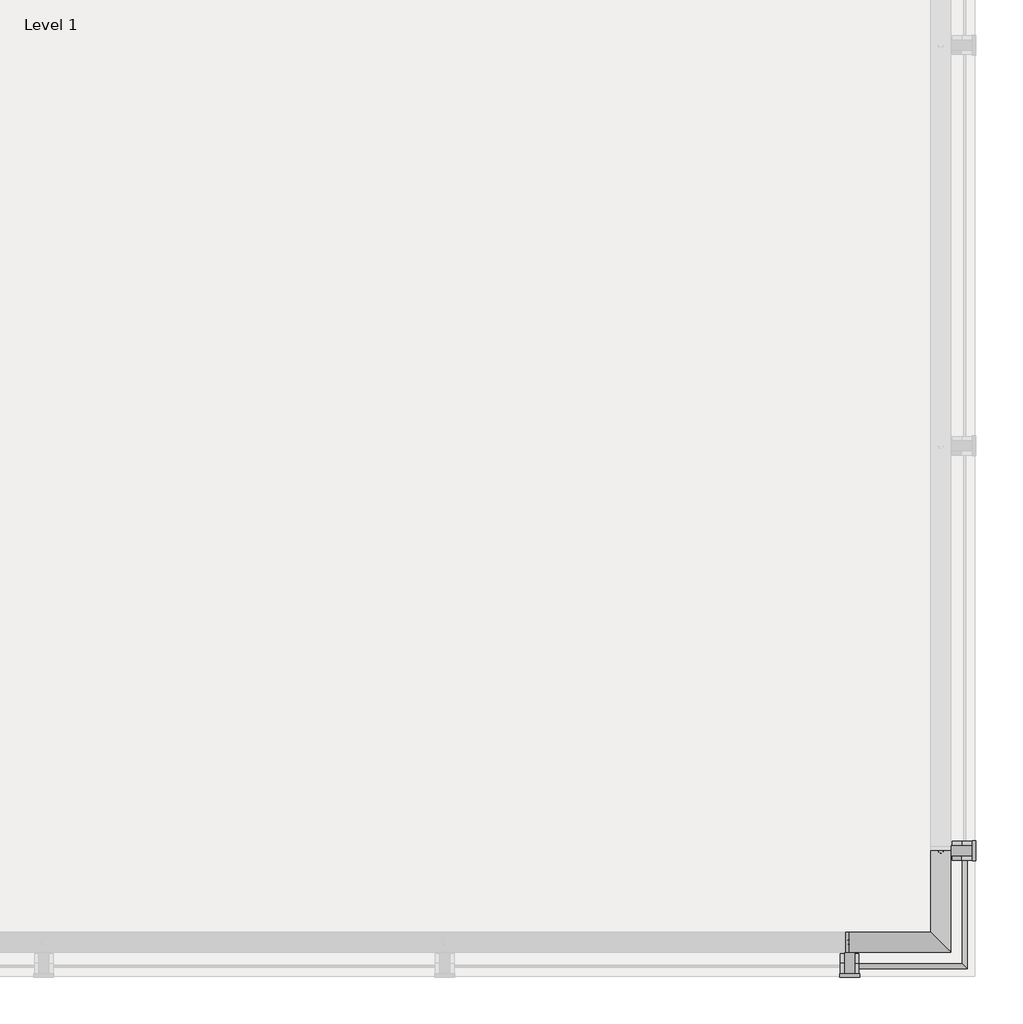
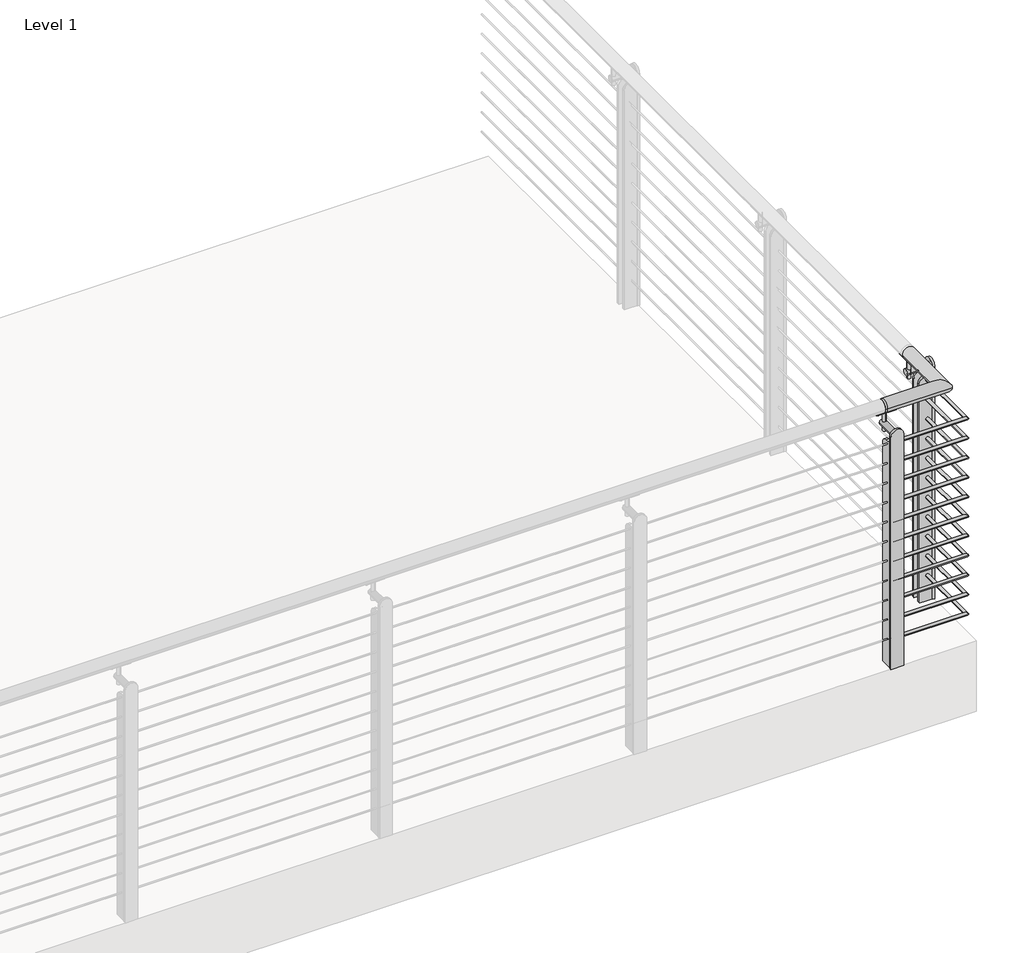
# One storey, part 8 of 9: 1 railing.
"""IFC4 building model written with IfcOpenShell, lengths in millimetres."""

import ifcopenshell
import ifcopenshell.guid

model = None  # the IFC model being written
_history = None  # IfcOwnerHistory: only IFC2X3 demands one
_inside = {}  # id of a spatial element -> (the spatial element, [elements in it])
_under = {}  # id of a project, library or spatial element -> (it, [spatial elements below it])
_declared = {}  # id of a project -> (the project, [libraries it declares])
_typed = {}  # id of a type object -> (the type object, [elements of that type])
_made_of = {}  # id of a material, layer set ... -> (it, [elements and type objects made of it])


def new_model(schema):
    """Start an empty IFC model of exactly this schema.

    Asked for "IFC4X3", IfcOpenShell would pick the latest addendum, in which some entities
    have other attributes; the version numbers below select the first issue.
    IFC2X3 requires an IfcOwnerHistory on every rooted entity: one is made here for all.
    """
    global model, _history
    if schema == "IFC4X3":
        model = ifcopenshell.file(schema_version=(4, 3, 0, 0))
    else:
        model = ifcopenshell.file(schema=schema)
    _inside.clear()
    _under.clear()
    _declared.clear()
    _typed.clear()
    _made_of.clear()
    _history = None
    if model.schema == "IFC2X3":
        org = make("IfcOrganization", Name="unknown")
        user = make(
            "IfcPersonAndOrganization",
            ThePerson=make("IfcPerson", FamilyName="unknown"),
            TheOrganization=org,
        )
        app = make(
            "IfcApplication",
            ApplicationDeveloper=org,
            Version="unknown",
            ApplicationFullName="unknown",
            ApplicationIdentifier="unknown",
        )
        _history = make(
            "IfcOwnerHistory",
            OwningUser=user,
            OwningApplication=app,
            ChangeAction="ADDED",
            CreationDate=0,
        )
    return model


def make(cls, **values):
    """One entity of the class cls with the attributes given. An attribute that is None is left unset."""
    return model.create_entity(
        cls, **{name: value for name, value in values.items() if value is not None}
    )


def rooted(cls, **values):
    """An entity with a GlobalId (a new one), such as an element, a storey or a relation."""
    return make(cls, GlobalId=ifcopenshell.guid.new(), OwnerHistory=_history, **values)


def si_unit(unit_type, name, prefix=None):
    """IfcSIUnit, for example si_unit("LENGTHUNIT", "METRE", prefix="MILLI")."""
    return make("IfcSIUnit", UnitType=unit_type, Prefix=prefix, Name=name)


def assignment(units):
    """IfcUnitAssignment: the units of a project."""
    return None if units is None else make("IfcUnitAssignment", Units=units)


def point(xyz):
    """IfcCartesianPoint."""
    return None if xyz is None else make("IfcCartesianPoint", Coordinates=xyz)


def direction(xyz):
    """IfcDirection."""
    return None if xyz is None else make("IfcDirection", DirectionRatios=xyz)


def frame(location, z_axis=None, x_axis=None):
    """IfcAxis2Placement3D, a coordinate frame: its origin and axes. An axis left out is left unset."""
    return make(
        "IfcAxis2Placement3D",
        Location=point(location),
        Axis=direction(z_axis),
        RefDirection=direction(x_axis),
    )


def frame_2d(location, x_axis=None):
    """IfcAxis2Placement2D, a coordinate frame in the plane: its origin and x axis."""
    return make(
        "IfcAxis2Placement2D", Location=point(location), RefDirection=direction(x_axis)
    )


def origin():
    """The frame at (0, 0, 0) with its axes left unset."""
    return frame((0.0, 0.0, 0.0))


def place(relative_to, where):
    """IfcLocalPlacement: puts the frame where relative to a parent placement (None: the world)."""
    return make(
        "IfcLocalPlacement", PlacementRelTo=relative_to, RelativePlacement=where
    )


def context(
    kind, dimensions, precision=None, world=None, true_north=None, identifier=None
):
    """IfcGeometricRepresentationContext, for example the 3D "Model" context."""
    return make(
        "IfcGeometricRepresentationContext",
        ContextIdentifier=identifier,
        ContextType=kind,
        CoordinateSpaceDimension=dimensions,
        Precision=precision,
        WorldCoordinateSystem=world,
        TrueNorth=true_north,
    )


def project(units=None, contexts=None):
    """IfcProject with its units and contexts."""
    return rooted(
        "IfcProject",
        Name="project",
        RepresentationContexts=contexts,
        UnitsInContext=assignment(units),
    )


def spatial(cls, under=None, at=None, **own):
    """A site, building, storey or space (cls), placed at a placement, below another one or the project."""
    s = rooted(cls, ObjectPlacement=at, **own)
    if under is not None:
        _under.setdefault(under.id(), (under, []))[1].append(s)
    return s


def polyline(points):
    """IfcPolyline through the points."""
    return make("IfcPolyline", Points=[point(p) for p in points])


def circle_curve(where, radius):
    """IfcCircle in the frame where."""
    return make("IfcCircle", Position=where, Radius=radius)


def ellipse_curve(where, semi_axis1, semi_axis2):
    """IfcEllipse in the frame where."""
    return make(
        "IfcEllipse", Position=where, SemiAxis1=semi_axis1, SemiAxis2=semi_axis2
    )


def trimmed(basis, trim1, trim2, sense, master):
    """IfcTrimmedCurve: the piece of a basis curve between two trims."""
    return make(
        "IfcTrimmedCurve",
        BasisCurve=basis,
        Trim1=trim1,
        Trim2=trim2,
        SenseAgreement=sense,
        MasterRepresentation=master,
    )


def segment(curve, same_sense, transition):
    """IfcCompositeCurveSegment."""
    return make(
        "IfcCompositeCurveSegment",
        Transition=transition,
        SameSense=same_sense,
        ParentCurve=curve,
    )


def composite_curve(segments, self_intersect=None):
    """IfcCompositeCurve: segments joined end to end."""
    return make("IfcCompositeCurve", Segments=segments, SelfIntersect=self_intersect)


def outline(outer, holes=None, kind="AREA"):
    """IfcArbitraryClosedProfileDef: a profile drawn as a closed curve; with holes, ...WithVoids."""
    if holes is None:
        return make("IfcArbitraryClosedProfileDef", ProfileType=kind, OuterCurve=outer)
    return make(
        "IfcArbitraryProfileDefWithVoids",
        ProfileType=kind,
        OuterCurve=outer,
        InnerCurves=holes,
    )


def extrude(swept, where, along, depth):
    """IfcExtrudedAreaSolid: the profile swept, set in the frame where, extruded along a direction by depth."""
    return make(
        "IfcExtrudedAreaSolid",
        SweptArea=swept,
        Position=where,
        ExtrudedDirection=direction(along),
        Depth=depth,
    )


def shape(context_of_items, identifier, shape_type, items):
    """IfcShapeRepresentation: the items that make up one representation, for example the "Body"."""
    return make(
        "IfcShapeRepresentation",
        ContextOfItems=context_of_items,
        RepresentationIdentifier=identifier,
        RepresentationType=shape_type,
        Items=items,
    )


def made_of(thing, what):
    """Note that an element or type object is made of a material, layer set ...; save() writes the relation."""
    if what is not None:
        _made_of.setdefault(what.id(), (what, []))[1].append(thing)
    return thing


def element(
    cls,
    number,
    at=None,
    inside=None,
    cuts=None,
    type_object=None,
    material=None,
    context=None,
    identifier="Body",
    shape_type=None,
    held_by="IfcProductDefinitionShape",
    body=None,
    shapes=None,
    **own,
):
    """One element of the class cls, such as IfcWall. Its Tag is "e" and its number.

    at: its placement. inside: the storey or other place that contains it. cuts: it is an
    opening in that element (IfcRelVoidsElement). A single representation is given by context,
    identifier, shape_type and body (its items); several are given by shapes. held_by: the class
    of the entity that holds the representations. save() writes the other relations.
    """
    e = rooted(cls, Tag="e%d" % number, ObjectPlacement=at, **own)
    if body is not None:
        shapes = [shape(context, identifier, shape_type, body)]
    if shapes is not None:
        e.Representation = make(held_by, Representations=shapes)
    if inside is not None:
        _inside.setdefault(inside.id(), (inside, []))[1].append(e)
    if cuts is not None:
        rooted(
            "IfcRelVoidsElement", RelatingBuildingElement=cuts, RelatedOpeningElement=e
        )
    if type_object is not None:
        _typed.setdefault(type_object.id(), (type_object, []))[1].append(e)
    return made_of(e, material)


def aggregate(whole, parts):
    """IfcRelAggregates: a whole, such as a stair, and the parts it consists of."""
    return rooted("IfcRelAggregates", RelatingObject=whole, RelatedObjects=parts)


def save(model, path):
    """Write the relations noted so far, then the file.

    IfcRelAggregates (storeys below a building ...), IfcRelContainedInSpatialStructure (elements
    in a storey), IfcRelDefinesByType, IfcRelAssociatesMaterial and IfcRelDeclares: one each for
    every whole, place, type object, material and project.
    """
    for whole, parts in _under.values():
        aggregate(whole, parts)
    for where, things in _inside.values():
        rooted(
            "IfcRelContainedInSpatialStructure",
            RelatedElements=things,
            RelatingStructure=where,
        )
    for kind, things in _typed.values():
        rooted("IfcRelDefinesByType", RelatedObjects=things, RelatingType=kind)
    for what, things in _made_of.values():
        rooted("IfcRelAssociatesMaterial", RelatedObjects=things, RelatingMaterial=what)
    for by, libraries in _declared.values():
        rooted("IfcRelDeclares", RelatingContext=by, RelatedDefinitions=libraries)
    model.write(path)


def plane_surface(at):
    """IfcPlane: the flat surface through the origin of the frame at, square to its z axis."""
    return make("IfcPlane", Position=at)


def cylinder_surface(at, radius):
    """IfcCylindricalSurface: all points at the distance radius from the z axis of the frame at."""
    return make("IfcCylindricalSurface", Position=at, Radius=radius)


def advanced_brep(points, edges, surfaces, faces):
    """IfcAdvancedBrep: a solid bounded by faces that lie on surfaces and meet in shared edges.

    An edge is (start, end): straight between two places in points (the first is 0);
    or (start, end, curve); or (start, end, curve, False) where it runs against its curve.
    A face is (place in surfaces, loops), or (place, loops, False) where it looks against
    its surface's normal. A loop lists edges by number (the first is 1), with a minus sign
    where the edge is run from its end to its start. The first loop is the outer one.
    """
    corners = [point(p) for p in points]
    vertices = [make("IfcVertexPoint", VertexGeometry=c) for c in corners]
    made = []
    for start, end, *more in edges:
        made.append(
            make(
                "IfcEdgeCurve",
                EdgeStart=vertices[start],
                EdgeEnd=vertices[end],
                EdgeGeometry=more[0] if more else make("IfcPolyline", Points=[corners[start], corners[end]]),
                SameSense=more[1] if len(more) > 1 else True,
            )
        )
    hull = []
    for where, loops, *sense in faces:
        bounds = []
        for j, loop in enumerate(loops):
            ring = [make("IfcOrientedEdge", EdgeElement=made[abs(k) - 1], Orientation=k > 0) for k in loop]
            bounds.append(
                make(
                    "IfcFaceOuterBound" if j == 0 else "IfcFaceBound",
                    Bound=make("IfcEdgeLoop", EdgeList=ring),
                    Orientation=True,
                )
            )
        hull.append(make("IfcAdvancedFace", Bounds=bounds, FaceSurface=surfaces[where], SameSense=sense[0] if sense else True))
    return make("IfcAdvancedBrep", Outer=make("IfcClosedShell", CfsFaces=hull))


model = new_model("IFC4")

# Units and contexts
model_context = context("Model", 3, world=origin())
ifc_project = project(units=[si_unit("LENGTHUNIT", "METRE", prefix="MILLI")], contexts=[model_context])

# Site, building, storey
site = spatial("IfcSite", under=ifc_project)
building = spatial("IfcBuilding", under=site)
storey = spatial("IfcBuildingStorey", under=building, Name="Level 1", Elevation=0.0)

# Railing
placement = place(None, origin())
element("IfcRailing", 1, ObjectType="VIVA-TEE-Cable-Weld Mount-Corner", at=placement, inside=storey, context=model_context, shape_type="SolidModel", body=[
    advanced_brep(
    [(-5110.3144753, -6007.8693064, 1054.1), (-5110.3144753, -6058.6693064, 1054.1), (-4853.1394753, -6058.6693064, 1054.1), (-4903.9394753, -6007.8693064, 1054.1), (-5120.7460999, -6058.6693064, 1054.1), (-5120.7460999, -6007.8693064, 1054.1), (-4853.1394753, -5801.4943064, 1054.1), (-4903.9394753, -5801.4943064, 1054.1)],
    [
        (0, 1, circle_curve(frame((-5110.3144753, -6033.2693064, 1054.1), z_axis=(1.0, 0.0, 0.0), x_axis=(0.0, 1.0, 0.0)), 25.4)),
        (1, 2),
        (2, 3, ellipse_curve(frame((-4878.5394753, -6033.2693064, 1054.1), z_axis=(-0.7071067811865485, -0.7071067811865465, 0.0), x_axis=(-0.7071067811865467, 0.7071067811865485, 0.0)), 35.9210245, 25.4)),
        (3, 0),
        (1, 0, circle_curve(frame((-5110.3144753, -6033.2693064, 1054.1), z_axis=(1.0, 0.0, 0.0), x_axis=(0.0, 1.0, 0.0)), 25.4)),
        (3, 2, ellipse_curve(frame((-4878.5394753, -6033.2693064, 1054.1), z_axis=(-0.7071067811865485, -0.7071067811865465, 0.0), x_axis=(-0.7071067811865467, 0.7071067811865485, 0.0)), 35.9210245, 25.4)),
        (4, 5, circle_curve(frame((-5120.7460999, -6033.2693064, 1054.1), z_axis=(-1.0, 0.0, 0.0), x_axis=(0.0, 1.0, 0.0)), 25.4)),
        (5, 4, circle_curve(frame((-5120.7460999, -6033.2693064, 1054.1), z_axis=(-1.0, 0.0, 0.0), x_axis=(0.0, 1.0, 0.0)), 25.4)),
        (4, 1),
        (0, 5),
        (6, 7, circle_curve(frame((-4878.5394753, -5801.4943064, 1054.1), z_axis=(0.0, 1.0, 0.0), x_axis=(-1.0, 0.0, 0.0)), 25.4)),
        (7, 6, circle_curve(frame((-4878.5394753, -5801.4943064, 1054.1), z_axis=(0.0, 1.0, 0.0), x_axis=(-1.0, 0.0, 0.0)), 25.4)),
        (2, 6),
        (7, 3),
    ],
    [
        cylinder_surface(frame((-5110.3144753, -6033.2693064, 1054.1), z_axis=(-1.0, 0.0, 0.0), x_axis=(0.0, 1.0, 0.0)), 25.4),
        plane_surface(frame((-5120.7460999, -6033.2693064, 1079.5), z_axis=(-1.0, 0.0, 0.0), x_axis=(0.0, 1.0, 0.0))),
        cylinder_surface(frame((-5120.7460999, -6033.2693064, 1054.1), z_axis=(-1.0, 0.0, 0.0), x_axis=(0.0, 1.0, 0.0)), 25.4),
        plane_surface(frame((-4878.5394753, -5801.4943064, 1079.5), z_axis=(0.0, 1.0, 0.0), x_axis=(0.0, 0.0, 1.0))),
        cylinder_surface(frame((-4878.5394753, -6033.2693064, 1054.1), z_axis=(0.0, -1.0, 0.0), x_axis=(-1.0, 0.0, 0.0)), 25.4),
    ],
    [
        (0, [[1, 2, 3, 4]]),
        (0, [[5, -4, 6, -2]]),
        (1, [[7, 8]]),
        (2, [[-7, 9, -1, 10]]),
        (2, [[-8, -10, -5, -9]]),
        (3, [[11, 12]]),
        (4, [[-3, 13, -12, 14]]),
        (4, [[-6, -14, -11, -13]]),
    ],
),
    advanced_brep(
    [(-5110.3144753, -6087.2443064, 933.45), (-5110.3144753, -6099.9443064, 933.45), (-4824.5644753, -6087.2443064, 933.45), (-4811.8644753, -6099.9443064, 933.45), (-4824.5644753, -5801.4943064, 933.45), (-4811.8644753, -5801.4943064, 933.45)],
    [
        (0, 1, circle_curve(frame((-5110.3144753, -6093.5943064, 933.45), z_axis=(-1.0, 0.0, 0.0), x_axis=(0.0, -1.0, 0.0)), 6.35)),
        (1, 0, circle_curve(frame((-5110.3144753, -6093.5943064, 933.45), z_axis=(-1.0, 0.0, 0.0), x_axis=(0.0, -1.0, 0.0)), 6.35)),
        (0, 2),
        (2, 3, ellipse_curve(frame((-4818.2144753, -6093.5943064, 933.45), z_axis=(-0.7071067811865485, -0.7071067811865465, 0.0), x_axis=(-0.7071067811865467, 0.7071067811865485, 0.0)), 8.9802561, 6.35)),
        (3, 1),
        (3, 2, ellipse_curve(frame((-4818.2144753, -6093.5943064, 933.45), z_axis=(-0.7071067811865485, -0.7071067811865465, 0.0), x_axis=(-0.7071067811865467, 0.7071067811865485, 0.0)), 8.9802561, 6.35)),
        (4, 5, circle_curve(frame((-4818.2144753, -5801.4943064, 933.45), z_axis=(0.0, 1.0, 0.0), x_axis=(1.0, 0.0, 0.0)), 6.35)),
        (5, 4, circle_curve(frame((-4818.2144753, -5801.4943064, 933.45), z_axis=(0.0, 1.0, 0.0), x_axis=(1.0, 0.0, 0.0)), 6.35)),
        (2, 4),
        (5, 3),
    ],
    [
        plane_surface(frame((-5110.3144753, -6093.5943064, 939.8), z_axis=(-1.0, 0.0, 0.0), x_axis=(0.0, 1.0, 0.0))),
        cylinder_surface(frame((-5110.3144753, -6093.5943064, 933.45), z_axis=(-1.0, 0.0, 0.0), x_axis=(0.0, -1.0, 0.0)), 6.35),
        plane_surface(frame((-4818.2144753, -5801.4943064, 939.8), z_axis=(0.0, 1.0, 0.0), x_axis=(0.0, 0.0, 1.0))),
        cylinder_surface(frame((-4818.2144753, -6093.5943064, 933.45), z_axis=(0.0, -1.0, 0.0), x_axis=(1.0, 0.0, 0.0)), 6.35),
    ],
    [
        (0, [[1, 2]]),
        (1, [[-1, 3, 4, 5]]),
        (1, [[-2, -5, 6, -3]]),
        (2, [[7, 8]]),
        (3, [[-4, 9, -8, 10]]),
        (3, [[-6, -10, -7, -9]]),
    ],
),
    advanced_brep(
    [(-5110.3144753, -6087.2443064, 850.9), (-5110.3144753, -6099.9443064, 850.9), (-4824.5644753, -6087.2443064, 850.9), (-4811.8644753, -6099.9443064, 850.9), (-4824.5644753, -5801.4943064, 850.9), (-4811.8644753, -5801.4943064, 850.9)],
    [
        (0, 1, circle_curve(frame((-5110.3144753, -6093.5943064, 850.9), z_axis=(-1.0, 0.0, 0.0), x_axis=(0.0, -1.0, 0.0)), 6.35)),
        (1, 0, circle_curve(frame((-5110.3144753, -6093.5943064, 850.9), z_axis=(-1.0, 0.0, 0.0), x_axis=(0.0, -1.0, 0.0)), 6.35)),
        (0, 2),
        (2, 3, ellipse_curve(frame((-4818.2144753, -6093.5943064, 850.9), z_axis=(-0.7071067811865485, -0.7071067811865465, 0.0), x_axis=(-0.7071067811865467, 0.7071067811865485, 0.0)), 8.9802561, 6.35)),
        (3, 1),
        (3, 2, ellipse_curve(frame((-4818.2144753, -6093.5943064, 850.9), z_axis=(-0.7071067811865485, -0.7071067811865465, 0.0), x_axis=(-0.7071067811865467, 0.7071067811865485, 0.0)), 8.9802561, 6.35)),
        (4, 5, circle_curve(frame((-4818.2144753, -5801.4943064, 850.9), z_axis=(0.0, 1.0, 0.0), x_axis=(1.0, 0.0, 0.0)), 6.35)),
        (5, 4, circle_curve(frame((-4818.2144753, -5801.4943064, 850.9), z_axis=(0.0, 1.0, 0.0), x_axis=(1.0, 0.0, 0.0)), 6.35)),
        (2, 4),
        (5, 3),
    ],
    [
        plane_surface(frame((-5110.3144753, -6093.5943064, 857.25), z_axis=(-1.0, 0.0, 0.0), x_axis=(0.0, 1.0, 0.0))),
        cylinder_surface(frame((-5110.3144753, -6093.5943064, 850.9), z_axis=(-1.0, 0.0, 0.0), x_axis=(0.0, -1.0, 0.0)), 6.35),
        plane_surface(frame((-4818.2144753, -5801.4943064, 857.25), z_axis=(0.0, 1.0, 0.0), x_axis=(0.0, 0.0, 1.0))),
        cylinder_surface(frame((-4818.2144753, -6093.5943064, 850.9), z_axis=(0.0, -1.0, 0.0), x_axis=(1.0, 0.0, 0.0)), 6.35),
    ],
    [
        (0, [[1, 2]]),
        (1, [[-1, 3, 4, 5]]),
        (1, [[-2, -5, 6, -3]]),
        (2, [[7, 8]]),
        (3, [[-4, 9, -8, 10]]),
        (3, [[-6, -10, -7, -9]]),
    ],
),
    advanced_brep(
    [(-5110.3144753, -6087.2443064, 768.35), (-5110.3144753, -6099.9443064, 768.35), (-4824.5644753, -6087.2443064, 768.35), (-4811.8644753, -6099.9443064, 768.35), (-4824.5644753, -5801.4943064, 768.35), (-4811.8644753, -5801.4943064, 768.35)],
    [
        (0, 1, circle_curve(frame((-5110.3144753, -6093.5943064, 768.35), z_axis=(-1.0, 0.0, 0.0), x_axis=(0.0, -1.0, 0.0)), 6.35)),
        (1, 0, circle_curve(frame((-5110.3144753, -6093.5943064, 768.35), z_axis=(-1.0, 0.0, 0.0), x_axis=(0.0, -1.0, 0.0)), 6.35)),
        (0, 2),
        (2, 3, ellipse_curve(frame((-4818.2144753, -6093.5943064, 768.35), z_axis=(-0.7071067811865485, -0.7071067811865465, 0.0), x_axis=(-0.7071067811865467, 0.7071067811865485, 0.0)), 8.9802561, 6.35)),
        (3, 1),
        (3, 2, ellipse_curve(frame((-4818.2144753, -6093.5943064, 768.35), z_axis=(-0.7071067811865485, -0.7071067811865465, 0.0), x_axis=(-0.7071067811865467, 0.7071067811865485, 0.0)), 8.9802561, 6.35)),
        (4, 5, circle_curve(frame((-4818.2144753, -5801.4943064, 768.35), z_axis=(0.0, 1.0, 0.0), x_axis=(1.0, 0.0, 0.0)), 6.35)),
        (5, 4, circle_curve(frame((-4818.2144753, -5801.4943064, 768.35), z_axis=(0.0, 1.0, 0.0), x_axis=(1.0, 0.0, 0.0)), 6.35)),
        (2, 4),
        (5, 3),
    ],
    [
        plane_surface(frame((-5110.3144753, -6093.5943064, 774.7), z_axis=(-1.0, 0.0, 0.0), x_axis=(0.0, 1.0, 0.0))),
        cylinder_surface(frame((-5110.3144753, -6093.5943064, 768.35), z_axis=(-1.0, 0.0, 0.0), x_axis=(0.0, -1.0, 0.0)), 6.35),
        plane_surface(frame((-4818.2144753, -5801.4943064, 774.7), z_axis=(0.0, 1.0, 0.0), x_axis=(0.0, 0.0, 1.0))),
        cylinder_surface(frame((-4818.2144753, -6093.5943064, 768.35), z_axis=(0.0, -1.0, 0.0), x_axis=(1.0, 0.0, 0.0)), 6.35),
    ],
    [
        (0, [[1, 2]]),
        (1, [[-1, 3, 4, 5]]),
        (1, [[-2, -5, 6, -3]]),
        (2, [[7, 8]]),
        (3, [[-4, 9, -8, 10]]),
        (3, [[-6, -10, -7, -9]]),
    ],
),
    advanced_brep(
    [(-5110.3144753, -6087.2443064, 685.8), (-5110.3144753, -6099.9443064, 685.8), (-4824.5644753, -6087.2443064, 685.8), (-4811.8644753, -6099.9443064, 685.8), (-4824.5644753, -5801.4943064, 685.8), (-4811.8644753, -5801.4943064, 685.8)],
    [
        (0, 1, circle_curve(frame((-5110.3144753, -6093.5943064, 685.8), z_axis=(-1.0, 0.0, 0.0), x_axis=(0.0, -1.0, 0.0)), 6.35)),
        (1, 0, circle_curve(frame((-5110.3144753, -6093.5943064, 685.8), z_axis=(-1.0, 0.0, 0.0), x_axis=(0.0, -1.0, 0.0)), 6.35)),
        (0, 2),
        (2, 3, ellipse_curve(frame((-4818.2144753, -6093.5943064, 685.8), z_axis=(-0.7071067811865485, -0.7071067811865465, 0.0), x_axis=(-0.7071067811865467, 0.7071067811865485, 0.0)), 8.9802561, 6.35)),
        (3, 1),
        (3, 2, ellipse_curve(frame((-4818.2144753, -6093.5943064, 685.8), z_axis=(-0.7071067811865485, -0.7071067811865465, 0.0), x_axis=(-0.7071067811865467, 0.7071067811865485, 0.0)), 8.9802561, 6.35)),
        (4, 5, circle_curve(frame((-4818.2144753, -5801.4943064, 685.8), z_axis=(0.0, 1.0, 0.0), x_axis=(1.0, 0.0, 0.0)), 6.35)),
        (5, 4, circle_curve(frame((-4818.2144753, -5801.4943064, 685.8), z_axis=(0.0, 1.0, 0.0), x_axis=(1.0, 0.0, 0.0)), 6.35)),
        (2, 4),
        (5, 3),
    ],
    [
        plane_surface(frame((-5110.3144753, -6093.5943064, 692.15), z_axis=(-1.0, 0.0, 0.0), x_axis=(0.0, 1.0, 0.0))),
        cylinder_surface(frame((-5110.3144753, -6093.5943064, 685.8), z_axis=(-1.0, 0.0, 0.0), x_axis=(0.0, -1.0, 0.0)), 6.35),
        plane_surface(frame((-4818.2144753, -5801.4943064, 692.15), z_axis=(0.0, 1.0, 0.0), x_axis=(0.0, 0.0, 1.0))),
        cylinder_surface(frame((-4818.2144753, -6093.5943064, 685.8), z_axis=(0.0, -1.0, 0.0), x_axis=(1.0, 0.0, 0.0)), 6.35),
    ],
    [
        (0, [[1, 2]]),
        (1, [[-1, 3, 4, 5]]),
        (1, [[-2, -5, 6, -3]]),
        (2, [[7, 8]]),
        (3, [[-4, 9, -8, 10]]),
        (3, [[-6, -10, -7, -9]]),
    ],
),
    advanced_brep(
    [(-5110.3144753, -6087.2443064, 603.25), (-5110.3144753, -6099.9443064, 603.25), (-4824.5644753, -6087.2443064, 603.25), (-4811.8644753, -6099.9443064, 603.25), (-4824.5644753, -5801.4943064, 603.25), (-4811.8644753, -5801.4943064, 603.25)],
    [
        (0, 1, circle_curve(frame((-5110.3144753, -6093.5943064, 603.25), z_axis=(-1.0, 0.0, 0.0), x_axis=(0.0, -1.0, 0.0)), 6.35)),
        (1, 0, circle_curve(frame((-5110.3144753, -6093.5943064, 603.25), z_axis=(-1.0, 0.0, 0.0), x_axis=(0.0, -1.0, 0.0)), 6.35)),
        (0, 2),
        (2, 3, ellipse_curve(frame((-4818.2144753, -6093.5943064, 603.25), z_axis=(-0.7071067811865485, -0.7071067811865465, 0.0), x_axis=(-0.7071067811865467, 0.7071067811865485, 0.0)), 8.9802561, 6.35)),
        (3, 1),
        (3, 2, ellipse_curve(frame((-4818.2144753, -6093.5943064, 603.25), z_axis=(-0.7071067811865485, -0.7071067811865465, 0.0), x_axis=(-0.7071067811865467, 0.7071067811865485, 0.0)), 8.9802561, 6.35)),
        (4, 5, circle_curve(frame((-4818.2144753, -5801.4943064, 603.25), z_axis=(0.0, 1.0, 0.0), x_axis=(1.0, 0.0, 0.0)), 6.35)),
        (5, 4, circle_curve(frame((-4818.2144753, -5801.4943064, 603.25), z_axis=(0.0, 1.0, 0.0), x_axis=(1.0, 0.0, 0.0)), 6.35)),
        (2, 4),
        (5, 3),
    ],
    [
        plane_surface(frame((-5110.3144753, -6093.5943064, 609.6), z_axis=(-1.0, 0.0, 0.0), x_axis=(0.0, 1.0, 0.0))),
        cylinder_surface(frame((-5110.3144753, -6093.5943064, 603.25), z_axis=(-1.0, 0.0, 0.0), x_axis=(0.0, -1.0, 0.0)), 6.35),
        plane_surface(frame((-4818.2144753, -5801.4943064, 609.6), z_axis=(0.0, 1.0, 0.0), x_axis=(0.0, 0.0, 1.0))),
        cylinder_surface(frame((-4818.2144753, -6093.5943064, 603.25), z_axis=(0.0, -1.0, 0.0), x_axis=(1.0, 0.0, 0.0)), 6.35),
    ],
    [
        (0, [[1, 2]]),
        (1, [[-1, 3, 4, 5]]),
        (1, [[-2, -5, 6, -3]]),
        (2, [[7, 8]]),
        (3, [[-4, 9, -8, 10]]),
        (3, [[-6, -10, -7, -9]]),
    ],
),
    advanced_brep(
    [(-5110.3144753, -6087.2443064, 520.7), (-5110.3144753, -6099.9443064, 520.7), (-4824.5644753, -6087.2443064, 520.7), (-4811.8644753, -6099.9443064, 520.7), (-4824.5644753, -5801.4943064, 520.7), (-4811.8644753, -5801.4943064, 520.7)],
    [
        (0, 1, circle_curve(frame((-5110.3144753, -6093.5943064, 520.7), z_axis=(-1.0, 0.0, 0.0), x_axis=(0.0, -1.0, 0.0)), 6.35)),
        (1, 0, circle_curve(frame((-5110.3144753, -6093.5943064, 520.7), z_axis=(-1.0, 0.0, 0.0), x_axis=(0.0, -1.0, 0.0)), 6.35)),
        (0, 2),
        (2, 3, ellipse_curve(frame((-4818.2144753, -6093.5943064, 520.7), z_axis=(-0.7071067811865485, -0.7071067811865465, 0.0), x_axis=(-0.7071067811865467, 0.7071067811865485, 0.0)), 8.9802561, 6.35)),
        (3, 1),
        (3, 2, ellipse_curve(frame((-4818.2144753, -6093.5943064, 520.7), z_axis=(-0.7071067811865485, -0.7071067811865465, 0.0), x_axis=(-0.7071067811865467, 0.7071067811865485, 0.0)), 8.9802561, 6.35)),
        (4, 5, circle_curve(frame((-4818.2144753, -5801.4943064, 520.7), z_axis=(0.0, 1.0, 0.0), x_axis=(1.0, 0.0, 0.0)), 6.35)),
        (5, 4, circle_curve(frame((-4818.2144753, -5801.4943064, 520.7), z_axis=(0.0, 1.0, 0.0), x_axis=(1.0, 0.0, 0.0)), 6.35)),
        (2, 4),
        (5, 3),
    ],
    [
        plane_surface(frame((-5110.3144753, -6093.5943064, 527.05), z_axis=(-1.0, 0.0, 0.0), x_axis=(0.0, 1.0, 0.0))),
        cylinder_surface(frame((-5110.3144753, -6093.5943064, 520.7), z_axis=(-1.0, 0.0, 0.0), x_axis=(0.0, -1.0, 0.0)), 6.35),
        plane_surface(frame((-4818.2144753, -5801.4943064, 527.05), z_axis=(0.0, 1.0, 0.0), x_axis=(0.0, 0.0, 1.0))),
        cylinder_surface(frame((-4818.2144753, -6093.5943064, 520.7), z_axis=(0.0, -1.0, 0.0), x_axis=(1.0, 0.0, 0.0)), 6.35),
    ],
    [
        (0, [[1, 2]]),
        (1, [[-1, 3, 4, 5]]),
        (1, [[-2, -5, 6, -3]]),
        (2, [[7, 8]]),
        (3, [[-4, 9, -8, 10]]),
        (3, [[-6, -10, -7, -9]]),
    ],
),
    advanced_brep(
    [(-5110.3144753, -6087.2443064, 438.15), (-5110.3144753, -6099.9443064, 438.15), (-4824.5644753, -6087.2443064, 438.15), (-4811.8644753, -6099.9443064, 438.15), (-4824.5644753, -5801.4943064, 438.15), (-4811.8644753, -5801.4943064, 438.15)],
    [
        (0, 1, circle_curve(frame((-5110.3144753, -6093.5943064, 438.15), z_axis=(-1.0, 0.0, 0.0), x_axis=(0.0, -1.0, 0.0)), 6.35)),
        (1, 0, circle_curve(frame((-5110.3144753, -6093.5943064, 438.15), z_axis=(-1.0, 0.0, 0.0), x_axis=(0.0, -1.0, 0.0)), 6.35)),
        (0, 2),
        (2, 3, ellipse_curve(frame((-4818.2144753, -6093.5943064, 438.15), z_axis=(-0.7071067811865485, -0.7071067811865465, 0.0), x_axis=(-0.7071067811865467, 0.7071067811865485, 0.0)), 8.9802561, 6.35)),
        (3, 1),
        (3, 2, ellipse_curve(frame((-4818.2144753, -6093.5943064, 438.15), z_axis=(-0.7071067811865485, -0.7071067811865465, 0.0), x_axis=(-0.7071067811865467, 0.7071067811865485, 0.0)), 8.9802561, 6.35)),
        (4, 5, circle_curve(frame((-4818.2144753, -5801.4943064, 438.15), z_axis=(0.0, 1.0, 0.0), x_axis=(1.0, 0.0, 0.0)), 6.35)),
        (5, 4, circle_curve(frame((-4818.2144753, -5801.4943064, 438.15), z_axis=(0.0, 1.0, 0.0), x_axis=(1.0, 0.0, 0.0)), 6.35)),
        (2, 4),
        (5, 3),
    ],
    [
        plane_surface(frame((-5110.3144753, -6093.5943064, 444.5), z_axis=(-1.0, 0.0, 0.0), x_axis=(0.0, 1.0, 0.0))),
        cylinder_surface(frame((-5110.3144753, -6093.5943064, 438.15), z_axis=(-1.0, 0.0, 0.0), x_axis=(0.0, -1.0, 0.0)), 6.35),
        plane_surface(frame((-4818.2144753, -5801.4943064, 444.5), z_axis=(0.0, 1.0, 0.0), x_axis=(0.0, 0.0, 1.0))),
        cylinder_surface(frame((-4818.2144753, -6093.5943064, 438.15), z_axis=(0.0, -1.0, 0.0), x_axis=(1.0, 0.0, 0.0)), 6.35),
    ],
    [
        (0, [[1, 2]]),
        (1, [[-1, 3, 4, 5]]),
        (1, [[-2, -5, 6, -3]]),
        (2, [[7, 8]]),
        (3, [[-4, 9, -8, 10]]),
        (3, [[-6, -10, -7, -9]]),
    ],
),
    advanced_brep(
    [(-5110.3144753, -6087.2443064, 355.6), (-5110.3144753, -6099.9443064, 355.6), (-4824.5644753, -6087.2443064, 355.6), (-4811.8644753, -6099.9443064, 355.6), (-4824.5644753, -5801.4943064, 355.6), (-4811.8644753, -5801.4943064, 355.6)],
    [
        (0, 1, circle_curve(frame((-5110.3144753, -6093.5943064, 355.6), z_axis=(-1.0, 0.0, 0.0), x_axis=(0.0, -1.0, 0.0)), 6.35)),
        (1, 0, circle_curve(frame((-5110.3144753, -6093.5943064, 355.6), z_axis=(-1.0, 0.0, 0.0), x_axis=(0.0, -1.0, 0.0)), 6.35)),
        (0, 2),
        (2, 3, ellipse_curve(frame((-4818.2144753, -6093.5943064, 355.6), z_axis=(-0.7071067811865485, -0.7071067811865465, 0.0), x_axis=(-0.7071067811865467, 0.7071067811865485, 0.0)), 8.9802561, 6.35)),
        (3, 1),
        (3, 2, ellipse_curve(frame((-4818.2144753, -6093.5943064, 355.6), z_axis=(-0.7071067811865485, -0.7071067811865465, 0.0), x_axis=(-0.7071067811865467, 0.7071067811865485, 0.0)), 8.9802561, 6.35)),
        (4, 5, circle_curve(frame((-4818.2144753, -5801.4943064, 355.6), z_axis=(0.0, 1.0, 0.0), x_axis=(1.0, 0.0, 0.0)), 6.35)),
        (5, 4, circle_curve(frame((-4818.2144753, -5801.4943064, 355.6), z_axis=(0.0, 1.0, 0.0), x_axis=(1.0, 0.0, 0.0)), 6.35)),
        (2, 4),
        (5, 3),
    ],
    [
        plane_surface(frame((-5110.3144753, -6093.5943064, 361.95), z_axis=(-1.0, 0.0, 0.0), x_axis=(0.0, 1.0, 0.0))),
        cylinder_surface(frame((-5110.3144753, -6093.5943064, 355.6), z_axis=(-1.0, 0.0, 0.0), x_axis=(0.0, -1.0, 0.0)), 6.35),
        plane_surface(frame((-4818.2144753, -5801.4943064, 361.95), z_axis=(0.0, 1.0, 0.0), x_axis=(0.0, 0.0, 1.0))),
        cylinder_surface(frame((-4818.2144753, -6093.5943064, 355.6), z_axis=(0.0, -1.0, 0.0), x_axis=(1.0, 0.0, 0.0)), 6.35),
    ],
    [
        (0, [[1, 2]]),
        (1, [[-1, 3, 4, 5]]),
        (1, [[-2, -5, 6, -3]]),
        (2, [[7, 8]]),
        (3, [[-4, 9, -8, 10]]),
        (3, [[-6, -10, -7, -9]]),
    ],
),
    advanced_brep(
    [(-5110.3144753, -6087.2443064, 273.05), (-5110.3144753, -6099.9443064, 273.05), (-4824.5644753, -6087.2443064, 273.05), (-4811.8644753, -6099.9443064, 273.05), (-4824.5644753, -5801.4943064, 273.05), (-4811.8644753, -5801.4943064, 273.05)],
    [
        (0, 1, circle_curve(frame((-5110.3144753, -6093.5943064, 273.05), z_axis=(-1.0, 0.0, 0.0), x_axis=(0.0, -1.0, 0.0)), 6.35)),
        (1, 0, circle_curve(frame((-5110.3144753, -6093.5943064, 273.05), z_axis=(-1.0, 0.0, 0.0), x_axis=(0.0, -1.0, 0.0)), 6.35)),
        (0, 2),
        (2, 3, ellipse_curve(frame((-4818.2144753, -6093.5943064, 273.05), z_axis=(-0.7071067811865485, -0.7071067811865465, 0.0), x_axis=(-0.7071067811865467, 0.7071067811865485, 0.0)), 8.9802561, 6.35)),
        (3, 1),
        (3, 2, ellipse_curve(frame((-4818.2144753, -6093.5943064, 273.05), z_axis=(-0.7071067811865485, -0.7071067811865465, 0.0), x_axis=(-0.7071067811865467, 0.7071067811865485, 0.0)), 8.9802561, 6.35)),
        (4, 5, circle_curve(frame((-4818.2144753, -5801.4943064, 273.05), z_axis=(0.0, 1.0, 0.0), x_axis=(1.0, 0.0, 0.0)), 6.35)),
        (5, 4, circle_curve(frame((-4818.2144753, -5801.4943064, 273.05), z_axis=(0.0, 1.0, 0.0), x_axis=(1.0, 0.0, 0.0)), 6.35)),
        (2, 4),
        (5, 3),
    ],
    [
        plane_surface(frame((-5110.3144753, -6093.5943064, 279.4), z_axis=(-1.0, 0.0, 0.0), x_axis=(0.0, 1.0, 0.0))),
        cylinder_surface(frame((-5110.3144753, -6093.5943064, 273.05), z_axis=(-1.0, 0.0, 0.0), x_axis=(0.0, -1.0, 0.0)), 6.35),
        plane_surface(frame((-4818.2144753, -5801.4943064, 279.4), z_axis=(0.0, 1.0, 0.0), x_axis=(0.0, 0.0, 1.0))),
        cylinder_surface(frame((-4818.2144753, -6093.5943064, 273.05), z_axis=(0.0, -1.0, 0.0), x_axis=(1.0, 0.0, 0.0)), 6.35),
    ],
    [
        (0, [[1, 2]]),
        (1, [[-1, 3, 4, 5]]),
        (1, [[-2, -5, 6, -3]]),
        (2, [[7, 8]]),
        (3, [[-4, 9, -8, 10]]),
        (3, [[-6, -10, -7, -9]]),
    ],
),
    advanced_brep(
    [(-5110.3144753, -6087.2443064, 190.5), (-5110.3144753, -6099.9443064, 190.5), (-4824.5644753, -6087.2443064, 190.5), (-4811.8644753, -6099.9443064, 190.5), (-4824.5644753, -5801.4943064, 190.5), (-4811.8644753, -5801.4943064, 190.5)],
    [
        (0, 1, circle_curve(frame((-5110.3144753, -6093.5943064, 190.5), z_axis=(-1.0, 0.0, 0.0), x_axis=(0.0, -1.0, 0.0)), 6.35)),
        (1, 0, circle_curve(frame((-5110.3144753, -6093.5943064, 190.5), z_axis=(-1.0, 0.0, 0.0), x_axis=(0.0, -1.0, 0.0)), 6.35)),
        (0, 2),
        (2, 3, ellipse_curve(frame((-4818.2144753, -6093.5943064, 190.5), z_axis=(-0.7071067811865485, -0.7071067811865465, 0.0), x_axis=(-0.7071067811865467, 0.7071067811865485, 0.0)), 8.9802561, 6.35)),
        (3, 1),
        (3, 2, ellipse_curve(frame((-4818.2144753, -6093.5943064, 190.5), z_axis=(-0.7071067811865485, -0.7071067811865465, 0.0), x_axis=(-0.7071067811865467, 0.7071067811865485, 0.0)), 8.9802561, 6.35)),
        (4, 5, circle_curve(frame((-4818.2144753, -5801.4943064, 190.5), z_axis=(0.0, 1.0, 0.0), x_axis=(1.0, 0.0, 0.0)), 6.35)),
        (5, 4, circle_curve(frame((-4818.2144753, -5801.4943064, 190.5), z_axis=(0.0, 1.0, 0.0), x_axis=(1.0, 0.0, 0.0)), 6.35)),
        (2, 4),
        (5, 3),
    ],
    [
        plane_surface(frame((-5110.3144753, -6093.5943064, 196.85), z_axis=(-1.0, 0.0, 0.0), x_axis=(0.0, 1.0, 0.0))),
        cylinder_surface(frame((-5110.3144753, -6093.5943064, 190.5), z_axis=(-1.0, 0.0, 0.0), x_axis=(0.0, -1.0, 0.0)), 6.35),
        plane_surface(frame((-4818.2144753, -5801.4943064, 196.85), z_axis=(0.0, 1.0, 0.0), x_axis=(0.0, 0.0, 1.0))),
        cylinder_surface(frame((-4818.2144753, -6093.5943064, 190.5), z_axis=(0.0, -1.0, 0.0), x_axis=(1.0, 0.0, 0.0)), 6.35),
    ],
    [
        (0, [[1, 2]]),
        (1, [[-1, 3, 4, 5]]),
        (1, [[-2, -5, 6, -3]]),
        (2, [[7, 8]]),
        (3, [[-4, 9, -8, 10]]),
        (3, [[-6, -10, -7, -9]]),
    ],
),
    advanced_brep(
    [(-5110.3144753, -6087.2443064, 107.95), (-5110.3144753, -6099.9443064, 107.95), (-4824.5644753, -6087.2443064, 107.95), (-4811.8644753, -6099.9443064, 107.95), (-4824.5644753, -5801.4943064, 107.95), (-4811.8644753, -5801.4943064, 107.95)],
    [
        (0, 1, circle_curve(frame((-5110.3144753, -6093.5943064, 107.95), z_axis=(-1.0, 0.0, 0.0), x_axis=(0.0, -1.0, 0.0)), 6.35)),
        (1, 0, circle_curve(frame((-5110.3144753, -6093.5943064, 107.95), z_axis=(-1.0, 0.0, 0.0), x_axis=(0.0, -1.0, 0.0)), 6.35)),
        (0, 2),
        (2, 3, ellipse_curve(frame((-4818.2144753, -6093.5943064, 107.95), z_axis=(-0.7071067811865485, -0.7071067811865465, 0.0), x_axis=(-0.7071067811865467, 0.7071067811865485, 0.0)), 8.9802561, 6.35)),
        (3, 1),
        (3, 2, ellipse_curve(frame((-4818.2144753, -6093.5943064, 107.95), z_axis=(-0.7071067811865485, -0.7071067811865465, 0.0), x_axis=(-0.7071067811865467, 0.7071067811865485, 0.0)), 8.9802561, 6.35)),
        (4, 5, circle_curve(frame((-4818.2144753, -5801.4943064, 107.95), z_axis=(0.0, 1.0, 0.0), x_axis=(1.0, 0.0, 0.0)), 6.35)),
        (5, 4, circle_curve(frame((-4818.2144753, -5801.4943064, 107.95), z_axis=(0.0, 1.0, 0.0), x_axis=(1.0, 0.0, 0.0)), 6.35)),
        (2, 4),
        (5, 3),
    ],
    [
        plane_surface(frame((-5110.3144753, -6093.5943064, 114.3), z_axis=(-1.0, 0.0, 0.0), x_axis=(0.0, 1.0, 0.0))),
        cylinder_surface(frame((-5110.3144753, -6093.5943064, 107.95), z_axis=(-1.0, 0.0, 0.0), x_axis=(0.0, -1.0, 0.0)), 6.35),
        plane_surface(frame((-4818.2144753, -5801.4943064, 114.3), z_axis=(0.0, 1.0, 0.0), x_axis=(0.0, 0.0, 1.0))),
        cylinder_surface(frame((-4818.2144753, -6093.5943064, 107.95), z_axis=(0.0, -1.0, 0.0), x_axis=(1.0, 0.0, 0.0)), 6.35),
    ],
    [
        (0, [[1, 2]]),
        (1, [[-1, 3, 4, 5]]),
        (1, [[-2, -5, 6, -3]]),
        (2, [[7, 8]]),
        (3, [[-4, 9, -8, 10]]),
        (3, [[-6, -10, -7, -9]]),
    ],
),
    extrude(outline(composite_curve([segment(trimmed(circle_curve(frame_2d((0.0, 7.0)), 7.0), [point((0.0, 14.0))], [point((0.0, 0.0))], False, "CARTESIAN"), True, "CONTINUOUS"), segment(trimmed(circle_curve(frame_2d((0.0, 7.0)), 7.0), [point((0.0, 0.0))], [point((0.0, 14.0))], False, "CARTESIAN"), True, "CONTINUOUS")], self_intersect=False)), frame((-4871.8296215, -5801.4205965, 949.1832524), z_axis=(0.0, 0.004253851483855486, 0.9999909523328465), x_axis=(0.0, 0.9999909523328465, -0.004253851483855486)), (0.0, 0.0, 1.0), 75.97),
    extrude(outline(composite_curve([segment(trimmed(circle_curve(frame_2d((1047.2025651, -4878.9710255)), 19.05), [point((1033.7916463, -4865.4414373))], [point((1033.7916463, -4892.5006138))], True, "CARTESIAN"), True, "CONTINUOUS"), segment(polyline([(1033.7916463, -4892.5006138), (1032.7742593, -4893.5270034)]), True, "CONTINUOUS"), segment(trimmed(circle_curve(frame_2d((1031.7089374, -4892.4710255)), 1.5), [point((1032.7742593, -4893.5270034))], [point((1030.5780156, -4893.456427))], False, "CARTESIAN"), True, "CONTINUOUS"), segment(trimmed(circle_curve(frame_2d((1047.2025651, -4878.9710255)), 22.05), [point((1030.5780156, -4893.456427))], [point((1030.5780156, -4864.4856241))], False, "CARTESIAN"), True, "CONTINUOUS"), segment(trimmed(circle_curve(frame_2d((1031.7089374, -4865.4710255)), 1.5), [point((1030.5780156, -4864.4856241))], [point((1032.7742593, -4864.4150477))], False, "CARTESIAN"), True, "CONTINUOUS"), segment(polyline([(1032.7742593, -4864.4150477), (1033.7916463, -4865.4414373)]), True, "CONTINUOUS")], self_intersect=False)), frame((0.0, -5836.9590707, 0.0), z_axis=(0.0, 1.0, 0.0), x_axis=(0.0, 0.0, 1.0)), (0.0, 0.0, 1.0), 74.5229187),
    extrude(outline(composite_curve([segment(trimmed(circle_curve(frame_2d((-5801.2162661, 976.1259188)), 12.5), [point((-5813.7162661, 976.1259188))], [point((-5788.7162661, 976.1259188))], False, "CARTESIAN"), True, "CONTINUOUS"), segment(trimmed(circle_curve(frame_2d((-5801.2162661, 976.1259188)), 12.5), [point((-5788.7162661, 976.1259188))], [point((-5813.7162661, 976.1259188))], False, "CARTESIAN"), True, "CONTINUOUS")], self_intersect=False)), frame((-4891.4866356, 0.0, 0.0), z_axis=(1.0, 0.0, 0.0), x_axis=(0.0, 1.0, 0.0)), (0.0, 0.0, 1.0), 92.423),
    extrude(outline(composite_curve([segment(trimmed(circle_curve(frame_2d((924.2425, -4825.2299268)), 24.765), [point((949.0075, -4825.2299268))], [point((924.2425, -4849.9949268))], False, "CARTESIAN"), True, "CONTINUOUS"), segment(polyline([(924.2425, -4849.9949268), (0.0, -4849.9949268), (0.0, -4799.1644753), (949.0075, -4799.1644753), (949.0075, -4825.2299268)]), True, "CONTINUOUS")], self_intersect=False)), frame((0.0, -5787.0939318, 0.0), z_axis=(0.0, 1.0, 0.0), x_axis=(0.0, 0.0, 1.0)), (0.0, 0.0, 1.0), 9.525),
    extrude(outline(composite_curve([segment(polyline([(-5775.6974314, 0.0), (-5826.4974314, 0.0), (-5826.4974314, 979.17)]), True, "CONTINUOUS"), segment(trimmed(circle_curve(frame_2d((-5801.0974314, 979.17)), 25.4), [point((-5826.4974314, 979.17))], [point((-5775.6974314, 979.17))], False, "CARTESIAN"), True, "CONTINUOUS"), segment(polyline([(-5775.6974314, 979.17), (-5775.6974314, 0.0)]), True, "CONTINUOUS")], self_intersect=False)), frame((-4799.1644753, 0.0, 0.0), z_axis=(1.0, 0.0, 0.0), x_axis=(0.0, 1.0, 0.0)), (0.0, 0.0, 1.0), 9.525),
    extrude(outline(composite_curve([segment(trimmed(circle_curve(frame_2d((924.2425, -4825.2299268)), 24.765), [point((949.0075, -4825.2299268))], [point((924.2425, -4849.9949268))], False, "CARTESIAN"), True, "CONTINUOUS"), segment(polyline([(924.2425, -4849.9949268), (0.0, -4849.9949268), (0.0, -4799.1644753), (949.0075, -4799.1644753), (949.0075, -4825.2299268)]), True, "CONTINUOUS")], self_intersect=False)), frame((0.0, -5824.625931, 0.0), z_axis=(0.0, 1.0, 0.0), x_axis=(0.0, 0.0, 1.0)), (0.0, 0.0, 1.0), 9.525),
    extrude(outline(composite_curve([segment(trimmed(circle_curve(frame_2d((0.0, 7.0)), 7.0), [point((0.0, 14.0))], [point((0.0, 0.0))], False, "CARTESIAN"), True, "CONTINUOUS"), segment(trimmed(circle_curve(frame_2d((0.0, 7.0)), 7.0), [point((0.0, 0.0))], [point((0.0, 14.0))], False, "CARTESIAN"), True, "CONTINUOUS")], self_intersect=False)), frame((-5110.2407654, -6039.9791602, 949.1832524), z_axis=(0.004253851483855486, 0.0, 0.9999909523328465), x_axis=(0.9999909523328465, 0.0, -0.004253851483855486)), (0.0, 0.0, 1.0), 75.97),
    extrude(outline(composite_curve([segment(trimmed(circle_curve(frame_2d((-6032.8377562, 1047.2025651)), 19.05), [point((-6046.3673444, 1033.7916463))], [point((-6019.3081679, 1033.7916463))], True, "CARTESIAN"), True, "CONTINUOUS"), segment(polyline([(-6019.3081679, 1033.7916463), (-6018.2817783, 1032.7742593)]), True, "CONTINUOUS"), segment(trimmed(circle_curve(frame_2d((-6019.3377562, 1031.7089374)), 1.5), [point((-6018.2817783, 1032.7742593))], [point((-6018.3523547, 1030.5780156))], False, "CARTESIAN"), True, "CONTINUOUS"), segment(trimmed(circle_curve(frame_2d((-6032.8377562, 1047.2025651)), 22.05), [point((-6018.3523547, 1030.5780156))], [point((-6047.3231576, 1030.5780156))], False, "CARTESIAN"), True, "CONTINUOUS"), segment(trimmed(circle_curve(frame_2d((-6046.3377562, 1031.7089374)), 1.5), [point((-6047.3231576, 1030.5780156))], [point((-6047.393734, 1032.7742593))], False, "CARTESIAN"), True, "CONTINUOUS"), segment(polyline([(-6047.393734, 1032.7742593), (-6046.3673444, 1033.7916463)]), True, "CONTINUOUS")], self_intersect=False)), frame((-5145.7792396, 0.0, 0.0), z_axis=(1.0, 0.0, 0.0), x_axis=(0.0, 1.0, 0.0)), (0.0, 0.0, 1.0), 74.5229187),
    extrude(outline(composite_curve([segment(trimmed(circle_curve(frame_2d((976.1259188, -5110.0364349)), 12.5), [point((976.1259188, -5122.5364349))], [point((976.1259188, -5097.5364349))], False, "CARTESIAN"), True, "CONTINUOUS"), segment(trimmed(circle_curve(frame_2d((976.1259188, -5110.0364349)), 12.5), [point((976.1259188, -5097.5364349))], [point((976.1259188, -5122.5364349))], False, "CARTESIAN"), True, "CONTINUOUS")], self_intersect=False)), frame((0.0, -6112.7451461, 0.0), z_axis=(0.0, 1.0, 0.0), x_axis=(0.0, 0.0, 1.0)), (0.0, 0.0, 1.0), 92.423),
    extrude(outline(composite_curve([segment(trimmed(circle_curve(frame_2d((-6086.5788549, 924.2425)), 24.765), [point((-6086.5788549, 949.0075))], [point((-6061.8138549, 924.2425))], False, "CARTESIAN"), True, "CONTINUOUS"), segment(polyline([(-6061.8138549, 924.2425), (-6061.8138549, 0.0), (-6112.6443064, 0.0), (-6112.6443064, 949.0075), (-6086.5788549, 949.0075)]), True, "CONTINUOUS")], self_intersect=False)), frame((-5095.9141007, 0.0, 0.0), z_axis=(1.0, 0.0, 0.0), x_axis=(0.0, 1.0, 0.0)), (0.0, 0.0, 1.0), 9.525),
    extrude(outline(composite_curve([segment(polyline([(0.0, -5084.5176003), (979.17, -5084.5176003)]), True, "CONTINUOUS"), segment(trimmed(circle_curve(frame_2d((979.17, -5109.9176003)), 25.4), [point((979.17, -5084.5176003))], [point((979.17, -5135.3176003))], False, "CARTESIAN"), True, "CONTINUOUS"), segment(polyline([(979.17, -5135.3176003), (0.0, -5135.3176003), (0.0, -5084.5176003)]), True, "CONTINUOUS")], self_intersect=False)), frame((0.0, -6122.1693064, 0.0), z_axis=(0.0, 1.0, 0.0), x_axis=(0.0, 0.0, 1.0)), (0.0, 0.0, 1.0), 9.525),
    extrude(outline(composite_curve([segment(trimmed(circle_curve(frame_2d((-6086.5788549, 924.2425)), 24.765), [point((-6086.5788549, 949.0075))], [point((-6061.8138549, 924.2425))], False, "CARTESIAN"), True, "CONTINUOUS"), segment(polyline([(-6061.8138549, 924.2425), (-6061.8138549, 0.0), (-6112.6443064, 0.0), (-6112.6443064, 949.0075), (-6086.5788549, 949.0075)]), True, "CONTINUOUS")], self_intersect=False)), frame((-5133.4460999, 0.0, 0.0), z_axis=(1.0, 0.0, 0.0), x_axis=(0.0, 1.0, 0.0)), (0.0, 0.0, 1.0), 9.525),
])

save(model, "model.ifc")
